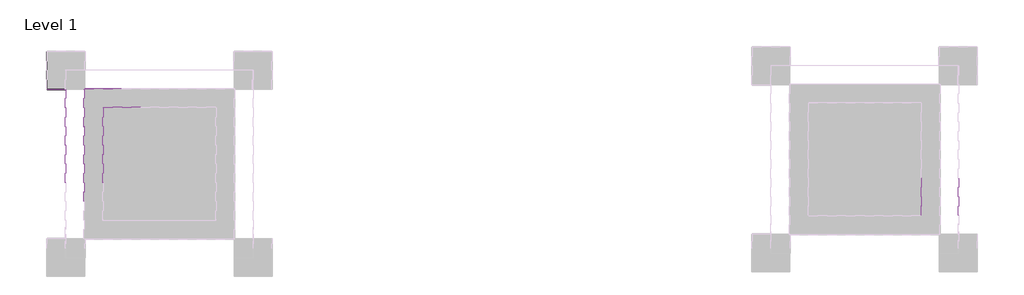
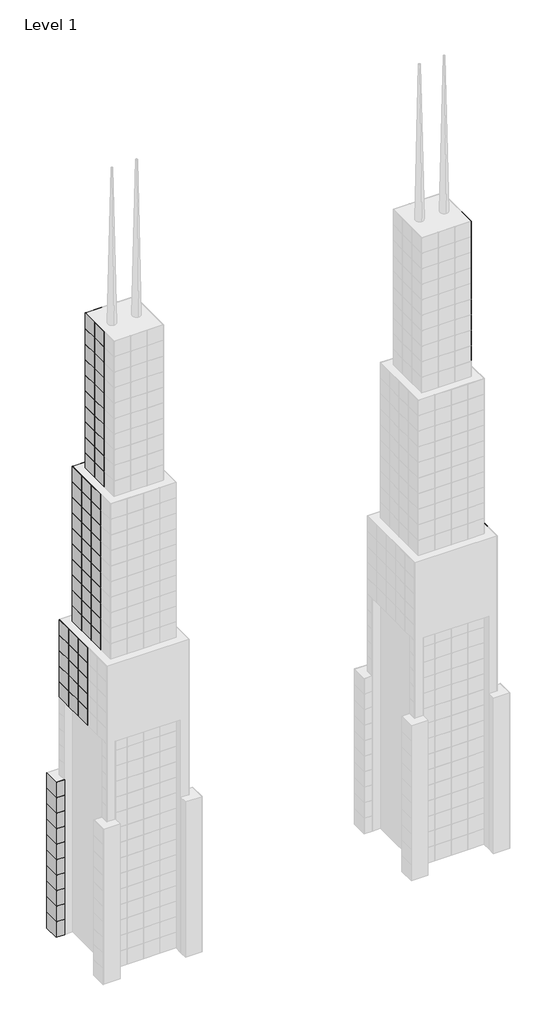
# One storey, part 7 of 15: 138 plates.
"""IFC4 building model written with IfcOpenShell, lengths in millimetres."""

from ifc_helpers import new_model, si_unit, origin, place, context, project, spatial, transform, mapped, element, save
from components import system_panel_glazed_9c75bc08, system_panel_glazed_0a0842ec, system_panel_glazed_aa64d645

model = new_model("IFC4")

# Units and contexts
model_context = context("Model", 3, world=origin())
ifc_project = project(units=[si_unit("LENGTHUNIT", "METRE", prefix="MILLI")], contexts=[model_context])

# Site, building, storey
site = spatial("IfcSite", under=ifc_project)
building = spatial("IfcBuilding", under=site)
storey = spatial("IfcBuildingStorey", under=building, Name="Level 1", Elevation=0.0)

# Plates
placement = place(None, origin())
system_panel_glazed_shape = system_panel_glazed_9c75bc08(model_context)
element("IfcPlate", 1, ObjectType="System Panel : Glazed", at=placement, inside=storey, context=model_context, shape_type="MappedRepresentation", body=[
    mapped(system_panel_glazed_shape, transform((-21601.4161695, 7973.9495511, 0.0), x_axis=(1.0, 0.0, 0.0), y_axis=(0.0, 1.0, 0.0), z_axis=(0.0, 0.0, 1.0))),
])
element("IfcPlate", 2, ObjectType="System Panel : Glazed", at=placement, inside=storey, context=model_context, shape_type="MappedRepresentation", body=[
    mapped(system_panel_glazed_shape, transform((-21601.4161695, 7973.9495511, 3048.0), x_axis=(1.0, 0.0, 0.0), y_axis=(0.0, 1.0, 0.0), z_axis=(0.0, 0.0, 1.0))),
])
element("IfcPlate", 3, ObjectType="System Panel : Glazed", at=placement, inside=storey, context=model_context, shape_type="MappedRepresentation", body=[
    mapped(system_panel_glazed_shape, transform((-21601.4161695, 7973.9495511, 6096.0), x_axis=(1.0, 0.0, 0.0), y_axis=(0.0, 1.0, 0.0), z_axis=(0.0, 0.0, 1.0))),
])
element("IfcPlate", 4, ObjectType="System Panel : Glazed", at=placement, inside=storey, context=model_context, shape_type="MappedRepresentation", body=[
    mapped(system_panel_glazed_shape, transform((-21601.4161695, 7973.9495511, 9144.0), x_axis=(1.0, 0.0, 0.0), y_axis=(0.0, 1.0, 0.0), z_axis=(0.0, 0.0, 1.0))),
])
element("IfcPlate", 5, ObjectType="System Panel : Glazed", at=placement, inside=storey, context=model_context, shape_type="MappedRepresentation", body=[
    mapped(system_panel_glazed_shape, transform((-21601.4161695, 7973.9495511, 12192.0), x_axis=(1.0, 0.0, 0.0), y_axis=(0.0, 1.0, 0.0), z_axis=(0.0, 0.0, 1.0))),
])
element("IfcPlate", 6, ObjectType="System Panel : Glazed", at=placement, inside=storey, context=model_context, shape_type="MappedRepresentation", body=[
    mapped(system_panel_glazed_shape, transform((-21601.4161695, 7973.9495511, 15240.0), x_axis=(1.0, 0.0, 0.0), y_axis=(0.0, 1.0, 0.0), z_axis=(0.0, 0.0, 1.0))),
])
element("IfcPlate", 7, ObjectType="System Panel : Glazed", at=placement, inside=storey, context=model_context, shape_type="MappedRepresentation", body=[
    mapped(system_panel_glazed_shape, transform((-21601.4161695, 7973.9495511, 18288.0), x_axis=(1.0, 0.0, 0.0), y_axis=(0.0, 1.0, 0.0), z_axis=(0.0, 0.0, 1.0))),
])
element("IfcPlate", 8, ObjectType="System Panel : Glazed", at=placement, inside=storey, context=model_context, shape_type="MappedRepresentation", body=[
    mapped(system_panel_glazed_shape, transform((-21601.4161695, 7973.9495511, 21336.0), x_axis=(1.0, 0.0, 0.0), y_axis=(0.0, 1.0, 0.0), z_axis=(0.0, 0.0, 1.0))),
])
element("IfcPlate", 9, ObjectType="System Panel : Glazed", at=placement, inside=storey, context=model_context, shape_type="MappedRepresentation", body=[
    mapped(system_panel_glazed_shape, transform((-21601.4161695, 7973.9495511, 24384.0), x_axis=(1.0, 0.0, 0.0), y_axis=(0.0, 1.0, 0.0), z_axis=(0.0, 0.0, 1.0))),
])
element("IfcPlate", 10, ObjectType="System Panel : Glazed", at=placement, inside=storey, context=model_context, shape_type="MappedRepresentation", body=[
    mapped(system_panel_glazed_shape, transform((-21601.4161695, 7973.9495511, 27432.0), x_axis=(1.0, 0.0, 0.0), y_axis=(0.0, 1.0, 0.0), z_axis=(0.0, 0.0, 1.0))),
])
system_panel_glazed_2_shape = system_panel_glazed_0a0842ec(model_context)
element("IfcPlate", 11, ObjectType="System Panel : Glazed", at=placement, inside=storey, context=model_context, shape_type="MappedRepresentation", body=[
    mapped(system_panel_glazed_2_shape, transform((-20839.4161695, 7973.9495511, 45720.0), x_axis=(0.0, -1.0, 0.0), y_axis=(1.0, 0.0, 0.0), z_axis=(0.0, 0.0, 1.0))),
])
element("IfcPlate", 12, ObjectType="System Panel : Glazed", at=placement, inside=storey, context=model_context, shape_type="MappedRepresentation", body=[
    mapped(system_panel_glazed_2_shape, transform((-20839.4161695, 7973.9495511, 45720.0), x_axis=(0.0, -1.0, 0.0), y_axis=(1.0, 0.0, 0.0), z_axis=(0.0, 0.0, 1.0))),
])
system_panel_glazed_3_shape = system_panel_glazed_aa64d645(model_context)
element("IfcPlate", 13, ObjectType="System Panel : Glazed", at=placement, inside=storey, context=model_context, shape_type="MappedRepresentation", body=[
    mapped(system_panel_glazed_3_shape, transform((-20839.4161695, 4925.9495511, 45720.0), x_axis=(0.0, -1.0, 0.0), y_axis=(1.0, 0.0, 0.0), z_axis=(0.0, 0.0, 1.0))),
])
element("IfcPlate", 14, ObjectType="System Panel : Glazed", at=placement, inside=storey, context=model_context, shape_type="MappedRepresentation", body=[
    mapped(system_panel_glazed_3_shape, transform((-20839.4161695, 1877.9495511, 45720.0), x_axis=(0.0, -1.0, 0.0), y_axis=(1.0, 0.0, 0.0), z_axis=(0.0, 0.0, 1.0))),
])
element("IfcPlate", 15, ObjectType="System Panel : Glazed", at=placement, inside=storey, context=model_context, shape_type="MappedRepresentation", body=[
    mapped(system_panel_glazed_3_shape, transform((-20839.4161695, 7973.9495511, 48768.0), x_axis=(0.0, -1.0, 0.0), y_axis=(1.0, 0.0, 0.0), z_axis=(0.0, 0.0, 1.0))),
])
element("IfcPlate", 16, ObjectType="System Panel : Glazed", at=placement, inside=storey, context=model_context, shape_type="MappedRepresentation", body=[
    mapped(system_panel_glazed_3_shape, transform((-20839.4161695, 4925.9495511, 48768.0), x_axis=(0.0, -1.0, 0.0), y_axis=(1.0, 0.0, 0.0), z_axis=(0.0, 0.0, 1.0))),
])
element("IfcPlate", 17, ObjectType="System Panel : Glazed", at=placement, inside=storey, context=model_context, shape_type="MappedRepresentation", body=[
    mapped(system_panel_glazed_3_shape, transform((-20839.4161695, 1877.9495511, 48768.0), x_axis=(0.0, -1.0, 0.0), y_axis=(1.0, 0.0, 0.0), z_axis=(0.0, 0.0, 1.0))),
])
element("IfcPlate", 18, ObjectType="System Panel : Glazed", at=placement, inside=storey, context=model_context, shape_type="MappedRepresentation", body=[
    mapped(system_panel_glazed_3_shape, transform((-20839.4161695, 7973.9495511, 51816.0), x_axis=(0.0, -1.0, 0.0), y_axis=(1.0, 0.0, 0.0), z_axis=(0.0, 0.0, 1.0))),
])
element("IfcPlate", 19, ObjectType="System Panel : Glazed", at=placement, inside=storey, context=model_context, shape_type="MappedRepresentation", body=[
    mapped(system_panel_glazed_3_shape, transform((-20839.4161695, 4925.9495511, 51816.0), x_axis=(0.0, -1.0, 0.0), y_axis=(1.0, 0.0, 0.0), z_axis=(0.0, 0.0, 1.0))),
])
element("IfcPlate", 20, ObjectType="System Panel : Glazed", at=placement, inside=storey, context=model_context, shape_type="MappedRepresentation", body=[
    mapped(system_panel_glazed_3_shape, transform((-20839.4161695, 1877.9495511, 51816.0), x_axis=(0.0, -1.0, 0.0), y_axis=(1.0, 0.0, 0.0), z_axis=(0.0, 0.0, 1.0))),
])
element("IfcPlate", 21, ObjectType="System Panel : Glazed", at=placement, inside=storey, context=model_context, shape_type="MappedRepresentation", body=[
    mapped(system_panel_glazed_3_shape, transform((-20839.4161695, 7973.9495511, 54864.0), x_axis=(0.0, -1.0, 0.0), y_axis=(1.0, 0.0, 0.0), z_axis=(0.0, 0.0, 1.0))),
])
element("IfcPlate", 22, ObjectType="System Panel : Glazed", at=placement, inside=storey, context=model_context, shape_type="MappedRepresentation", body=[
    mapped(system_panel_glazed_3_shape, transform((-20839.4161695, 4925.9495511, 54864.0), x_axis=(0.0, -1.0, 0.0), y_axis=(1.0, 0.0, 0.0), z_axis=(0.0, 0.0, 1.0))),
])
element("IfcPlate", 23, ObjectType="System Panel : Glazed", at=placement, inside=storey, context=model_context, shape_type="MappedRepresentation", body=[
    mapped(system_panel_glazed_3_shape, transform((-20839.4161695, 1877.9495511, 54864.0), x_axis=(0.0, -1.0, 0.0), y_axis=(1.0, 0.0, 0.0), z_axis=(0.0, 0.0, 1.0))),
])
element("IfcPlate", 24, ObjectType="System Panel : Glazed", at=placement, inside=storey, context=model_context, shape_type="MappedRepresentation", body=[
    mapped(system_panel_glazed_3_shape, transform((-20839.4161695, 7973.9495511, 57912.0), x_axis=(0.0, -1.0, 0.0), y_axis=(1.0, 0.0, 0.0), z_axis=(0.0, 0.0, 1.0))),
])
element("IfcPlate", 25, ObjectType="System Panel : Glazed", at=placement, inside=storey, context=model_context, shape_type="MappedRepresentation", body=[
    mapped(system_panel_glazed_3_shape, transform((-20839.4161695, 4925.9495511, 57912.0), x_axis=(0.0, -1.0, 0.0), y_axis=(1.0, 0.0, 0.0), z_axis=(0.0, 0.0, 1.0))),
])
element("IfcPlate", 26, ObjectType="System Panel : Glazed", at=placement, inside=storey, context=model_context, shape_type="MappedRepresentation", body=[
    mapped(system_panel_glazed_3_shape, transform((-20839.4161695, 1877.9495511, 57912.0), x_axis=(0.0, -1.0, 0.0), y_axis=(1.0, 0.0, 0.0), z_axis=(0.0, 0.0, 1.0))),
])
element("IfcPlate", 27, ObjectType="System Panel : Glazed", at=placement, inside=storey, context=model_context, shape_type="MappedRepresentation", body=[
    mapped(system_panel_glazed_3_shape, transform((-19315.4161695, 6449.9495511, 60960.0), x_axis=(0.0, -1.0, 0.0), y_axis=(1.0, 0.0, 0.0), z_axis=(0.0, 0.0, 1.0))),
])
element("IfcPlate", 28, ObjectType="System Panel : Glazed", at=placement, inside=storey, context=model_context, shape_type="MappedRepresentation", body=[
    mapped(system_panel_glazed_3_shape, transform((-19315.4161695, 3401.9495511, 60960.0), x_axis=(0.0, -1.0, 0.0), y_axis=(1.0, 0.0, 0.0), z_axis=(0.0, 0.0, 1.0))),
])
element("IfcPlate", 29, ObjectType="System Panel : Glazed", at=placement, inside=storey, context=model_context, shape_type="MappedRepresentation", body=[
    mapped(system_panel_glazed_3_shape, transform((-19315.4161695, 353.9495511, 60960.0), x_axis=(0.0, -1.0, 0.0), y_axis=(1.0, 0.0, 0.0), z_axis=(0.0, 0.0, 1.0))),
])
element("IfcPlate", 30, ObjectType="System Panel : Glazed", at=placement, inside=storey, context=model_context, shape_type="MappedRepresentation", body=[
    mapped(system_panel_glazed_3_shape, transform((-19315.4161695, 6449.9495511, 64008.0), x_axis=(0.0, -1.0, 0.0), y_axis=(1.0, 0.0, 0.0), z_axis=(0.0, 0.0, 1.0))),
])
element("IfcPlate", 31, ObjectType="System Panel : Glazed", at=placement, inside=storey, context=model_context, shape_type="MappedRepresentation", body=[
    mapped(system_panel_glazed_3_shape, transform((-19315.4161695, 3401.9495511, 64008.0), x_axis=(0.0, -1.0, 0.0), y_axis=(1.0, 0.0, 0.0), z_axis=(0.0, 0.0, 1.0))),
])
element("IfcPlate", 32, ObjectType="System Panel : Glazed", at=placement, inside=storey, context=model_context, shape_type="MappedRepresentation", body=[
    mapped(system_panel_glazed_3_shape, transform((-19315.4161695, 353.9495511, 64008.0), x_axis=(0.0, -1.0, 0.0), y_axis=(1.0, 0.0, 0.0), z_axis=(0.0, 0.0, 1.0))),
])
element("IfcPlate", 33, ObjectType="System Panel : Glazed", at=placement, inside=storey, context=model_context, shape_type="MappedRepresentation", body=[
    mapped(system_panel_glazed_3_shape, transform((-19315.4161695, 6449.9495511, 67056.0), x_axis=(0.0, -1.0, 0.0), y_axis=(1.0, 0.0, 0.0), z_axis=(0.0, 0.0, 1.0))),
])
element("IfcPlate", 34, ObjectType="System Panel : Glazed", at=placement, inside=storey, context=model_context, shape_type="MappedRepresentation", body=[
    mapped(system_panel_glazed_3_shape, transform((-19315.4161695, 3401.9495511, 67056.0), x_axis=(0.0, -1.0, 0.0), y_axis=(1.0, 0.0, 0.0), z_axis=(0.0, 0.0, 1.0))),
])
element("IfcPlate", 35, ObjectType="System Panel : Glazed", at=placement, inside=storey, context=model_context, shape_type="MappedRepresentation", body=[
    mapped(system_panel_glazed_3_shape, transform((-19315.4161695, 353.9495511, 67056.0), x_axis=(0.0, -1.0, 0.0), y_axis=(1.0, 0.0, 0.0), z_axis=(0.0, 0.0, 1.0))),
])
element("IfcPlate", 36, ObjectType="System Panel : Glazed", at=placement, inside=storey, context=model_context, shape_type="MappedRepresentation", body=[
    mapped(system_panel_glazed_3_shape, transform((-19315.4161695, 6449.9495511, 70104.0), x_axis=(0.0, -1.0, 0.0), y_axis=(1.0, 0.0, 0.0), z_axis=(0.0, 0.0, 1.0))),
])
element("IfcPlate", 37, ObjectType="System Panel : Glazed", at=placement, inside=storey, context=model_context, shape_type="MappedRepresentation", body=[
    mapped(system_panel_glazed_3_shape, transform((-19315.4161695, 3401.9495511, 70104.0), x_axis=(0.0, -1.0, 0.0), y_axis=(1.0, 0.0, 0.0), z_axis=(0.0, 0.0, 1.0))),
])
element("IfcPlate", 38, ObjectType="System Panel : Glazed", at=placement, inside=storey, context=model_context, shape_type="MappedRepresentation", body=[
    mapped(system_panel_glazed_3_shape, transform((-19315.4161695, 353.9495511, 70104.0), x_axis=(0.0, -1.0, 0.0), y_axis=(1.0, 0.0, 0.0), z_axis=(0.0, 0.0, 1.0))),
])
element("IfcPlate", 39, ObjectType="System Panel : Glazed", at=placement, inside=storey, context=model_context, shape_type="MappedRepresentation", body=[
    mapped(system_panel_glazed_3_shape, transform((-19315.4161695, 6449.9495511, 73152.0), x_axis=(0.0, -1.0, 0.0), y_axis=(1.0, 0.0, 0.0), z_axis=(0.0, 0.0, 1.0))),
])
element("IfcPlate", 40, ObjectType="System Panel : Glazed", at=placement, inside=storey, context=model_context, shape_type="MappedRepresentation", body=[
    mapped(system_panel_glazed_3_shape, transform((-19315.4161695, 3401.9495511, 73152.0), x_axis=(0.0, -1.0, 0.0), y_axis=(1.0, 0.0, 0.0), z_axis=(0.0, 0.0, 1.0))),
])
element("IfcPlate", 41, ObjectType="System Panel : Glazed", at=placement, inside=storey, context=model_context, shape_type="MappedRepresentation", body=[
    mapped(system_panel_glazed_3_shape, transform((-19315.4161695, 353.9495511, 73152.0), x_axis=(0.0, -1.0, 0.0), y_axis=(1.0, 0.0, 0.0), z_axis=(0.0, 0.0, 1.0))),
])
element("IfcPlate", 42, ObjectType="System Panel : Glazed", at=placement, inside=storey, context=model_context, shape_type="MappedRepresentation", body=[
    mapped(system_panel_glazed_3_shape, transform((-19315.4161695, 6449.9495511, 76200.0), x_axis=(0.0, -1.0, 0.0), y_axis=(1.0, 0.0, 0.0), z_axis=(0.0, 0.0, 1.0))),
])
element("IfcPlate", 43, ObjectType="System Panel : Glazed", at=placement, inside=storey, context=model_context, shape_type="MappedRepresentation", body=[
    mapped(system_panel_glazed_3_shape, transform((-19315.4161695, 3401.9495511, 76200.0), x_axis=(0.0, -1.0, 0.0), y_axis=(1.0, 0.0, 0.0), z_axis=(0.0, 0.0, 1.0))),
])
element("IfcPlate", 44, ObjectType="System Panel : Glazed", at=placement, inside=storey, context=model_context, shape_type="MappedRepresentation", body=[
    mapped(system_panel_glazed_3_shape, transform((-19315.4161695, 353.9495511, 76200.0), x_axis=(0.0, -1.0, 0.0), y_axis=(1.0, 0.0, 0.0), z_axis=(0.0, 0.0, 1.0))),
])
element("IfcPlate", 45, ObjectType="System Panel : Glazed", at=placement, inside=storey, context=model_context, shape_type="MappedRepresentation", body=[
    mapped(system_panel_glazed_3_shape, transform((-19315.4161695, 6449.9495511, 79248.0), x_axis=(0.0, -1.0, 0.0), y_axis=(1.0, 0.0, 0.0), z_axis=(0.0, 0.0, 1.0))),
])
element("IfcPlate", 46, ObjectType="System Panel : Glazed", at=placement, inside=storey, context=model_context, shape_type="MappedRepresentation", body=[
    mapped(system_panel_glazed_3_shape, transform((-19315.4161695, 3401.9495511, 79248.0), x_axis=(0.0, -1.0, 0.0), y_axis=(1.0, 0.0, 0.0), z_axis=(0.0, 0.0, 1.0))),
])
element("IfcPlate", 47, ObjectType="System Panel : Glazed", at=placement, inside=storey, context=model_context, shape_type="MappedRepresentation", body=[
    mapped(system_panel_glazed_3_shape, transform((-19315.4161695, 353.9495511, 79248.0), x_axis=(0.0, -1.0, 0.0), y_axis=(1.0, 0.0, 0.0), z_axis=(0.0, 0.0, 1.0))),
])
element("IfcPlate", 48, ObjectType="System Panel : Glazed", at=placement, inside=storey, context=model_context, shape_type="MappedRepresentation", body=[
    mapped(system_panel_glazed_3_shape, transform((-19315.4161695, 6449.9495511, 82296.0), x_axis=(0.0, -1.0, 0.0), y_axis=(1.0, 0.0, 0.0), z_axis=(0.0, 0.0, 1.0))),
])
element("IfcPlate", 49, ObjectType="System Panel : Glazed", at=placement, inside=storey, context=model_context, shape_type="MappedRepresentation", body=[
    mapped(system_panel_glazed_3_shape, transform((-19315.4161695, 3401.9495511, 82296.0), x_axis=(0.0, -1.0, 0.0), y_axis=(1.0, 0.0, 0.0), z_axis=(0.0, 0.0, 1.0))),
])
element("IfcPlate", 50, ObjectType="System Panel : Glazed", at=placement, inside=storey, context=model_context, shape_type="MappedRepresentation", body=[
    mapped(system_panel_glazed_3_shape, transform((-19315.4161695, 353.9495511, 82296.0), x_axis=(0.0, -1.0, 0.0), y_axis=(1.0, 0.0, 0.0), z_axis=(0.0, 0.0, 1.0))),
])
element("IfcPlate", 51, ObjectType="System Panel : Glazed", at=placement, inside=storey, context=model_context, shape_type="MappedRepresentation", body=[
    mapped(system_panel_glazed_3_shape, transform((-19315.4161695, 6449.9495511, 85344.0), x_axis=(0.0, -1.0, 0.0), y_axis=(1.0, 0.0, 0.0), z_axis=(0.0, 0.0, 1.0))),
])
element("IfcPlate", 52, ObjectType="System Panel : Glazed", at=placement, inside=storey, context=model_context, shape_type="MappedRepresentation", body=[
    mapped(system_panel_glazed_3_shape, transform((-19315.4161695, 3401.9495511, 85344.0), x_axis=(0.0, -1.0, 0.0), y_axis=(1.0, 0.0, 0.0), z_axis=(0.0, 0.0, 1.0))),
])
element("IfcPlate", 53, ObjectType="System Panel : Glazed", at=placement, inside=storey, context=model_context, shape_type="MappedRepresentation", body=[
    mapped(system_panel_glazed_3_shape, transform((-19315.4161695, 353.9495511, 85344.0), x_axis=(0.0, -1.0, 0.0), y_axis=(1.0, 0.0, 0.0), z_axis=(0.0, 0.0, 1.0))),
])
element("IfcPlate", 54, ObjectType="System Panel : Glazed", at=placement, inside=storey, context=model_context, shape_type="MappedRepresentation", body=[
    mapped(system_panel_glazed_3_shape, transform((-19315.4161695, 6449.9495511, 88392.0), x_axis=(0.0, -1.0, 0.0), y_axis=(1.0, 0.0, 0.0), z_axis=(0.0, 0.0, 1.0))),
])
element("IfcPlate", 55, ObjectType="System Panel : Glazed", at=placement, inside=storey, context=model_context, shape_type="MappedRepresentation", body=[
    mapped(system_panel_glazed_3_shape, transform((-19315.4161695, 3401.9495511, 88392.0), x_axis=(0.0, -1.0, 0.0), y_axis=(1.0, 0.0, 0.0), z_axis=(0.0, 0.0, 1.0))),
])
element("IfcPlate", 56, ObjectType="System Panel : Glazed", at=placement, inside=storey, context=model_context, shape_type="MappedRepresentation", body=[
    mapped(system_panel_glazed_3_shape, transform((-19315.4161695, 353.9495511, 88392.0), x_axis=(0.0, -1.0, 0.0), y_axis=(1.0, 0.0, 0.0), z_axis=(0.0, 0.0, 1.0))),
])
element("IfcPlate", 57, ObjectType="System Panel : Glazed", at=placement, inside=storey, context=model_context, shape_type="MappedRepresentation", body=[
    mapped(system_panel_glazed_3_shape, transform((-17791.4161695, 7973.9495511, 60960.0), x_axis=(-1.0, 0.0, 0.0), y_axis=(0.0, -1.0, 0.0), z_axis=(0.0, 0.0, 1.0))),
])
element("IfcPlate", 58, ObjectType="System Panel : Glazed", at=placement, inside=storey, context=model_context, shape_type="MappedRepresentation", body=[
    mapped(system_panel_glazed_3_shape, transform((-17791.4161695, 7973.9495511, 64008.0), x_axis=(-1.0, 0.0, 0.0), y_axis=(0.0, -1.0, 0.0), z_axis=(0.0, 0.0, 1.0))),
])
element("IfcPlate", 59, ObjectType="System Panel : Glazed", at=placement, inside=storey, context=model_context, shape_type="MappedRepresentation", body=[
    mapped(system_panel_glazed_3_shape, transform((-17791.4161695, 7973.9495511, 67056.0), x_axis=(-1.0, 0.0, 0.0), y_axis=(0.0, -1.0, 0.0), z_axis=(0.0, 0.0, 1.0))),
])
element("IfcPlate", 60, ObjectType="System Panel : Glazed", at=placement, inside=storey, context=model_context, shape_type="MappedRepresentation", body=[
    mapped(system_panel_glazed_3_shape, transform((-17791.4161695, 7973.9495511, 70104.0), x_axis=(-1.0, 0.0, 0.0), y_axis=(0.0, -1.0, 0.0), z_axis=(0.0, 0.0, 1.0))),
])
element("IfcPlate", 61, ObjectType="System Panel : Glazed", at=placement, inside=storey, context=model_context, shape_type="MappedRepresentation", body=[
    mapped(system_panel_glazed_3_shape, transform((-17791.4161695, 7973.9495511, 73152.0), x_axis=(-1.0, 0.0, 0.0), y_axis=(0.0, -1.0, 0.0), z_axis=(0.0, 0.0, 1.0))),
])
element("IfcPlate", 62, ObjectType="System Panel : Glazed", at=placement, inside=storey, context=model_context, shape_type="MappedRepresentation", body=[
    mapped(system_panel_glazed_3_shape, transform((-17791.4161695, 7973.9495511, 76200.0), x_axis=(-1.0, 0.0, 0.0), y_axis=(0.0, -1.0, 0.0), z_axis=(0.0, 0.0, 1.0))),
])
element("IfcPlate", 63, ObjectType="System Panel : Glazed", at=placement, inside=storey, context=model_context, shape_type="MappedRepresentation", body=[
    mapped(system_panel_glazed_3_shape, transform((-17791.4161695, 7973.9495511, 79248.0), x_axis=(-1.0, 0.0, 0.0), y_axis=(0.0, -1.0, 0.0), z_axis=(0.0, 0.0, 1.0))),
])
element("IfcPlate", 64, ObjectType="System Panel : Glazed", at=placement, inside=storey, context=model_context, shape_type="MappedRepresentation", body=[
    mapped(system_panel_glazed_3_shape, transform((-17791.4161695, 7973.9495511, 82296.0), x_axis=(-1.0, 0.0, 0.0), y_axis=(0.0, -1.0, 0.0), z_axis=(0.0, 0.0, 1.0))),
])
element("IfcPlate", 65, ObjectType="System Panel : Glazed", at=placement, inside=storey, context=model_context, shape_type="MappedRepresentation", body=[
    mapped(system_panel_glazed_3_shape, transform((-17791.4161695, 7973.9495511, 85344.0), x_axis=(-1.0, 0.0, 0.0), y_axis=(0.0, -1.0, 0.0), z_axis=(0.0, 0.0, 1.0))),
])
element("IfcPlate", 66, ObjectType="System Panel : Glazed", at=placement, inside=storey, context=model_context, shape_type="MappedRepresentation", body=[
    mapped(system_panel_glazed_3_shape, transform((-17791.4161695, 7973.9495511, 88392.0), x_axis=(-1.0, 0.0, 0.0), y_axis=(0.0, -1.0, 0.0), z_axis=(0.0, 0.0, 1.0))),
])
element("IfcPlate", 67, ObjectType="System Panel : Glazed", at=placement, inside=storey, context=model_context, shape_type="MappedRepresentation", body=[
    mapped(system_panel_glazed_3_shape, transform((-16261.8488996, 6449.9495511, 91440.0), x_axis=(-1.0, 0.0, 0.0), y_axis=(0.0, -1.0, 0.0), z_axis=(0.0, 0.0, 1.0))),
])
element("IfcPlate", 68, ObjectType="System Panel : Glazed", at=placement, inside=storey, context=model_context, shape_type="MappedRepresentation", body=[
    mapped(system_panel_glazed_3_shape, transform((-16261.8488996, 6449.9495511, 94488.0), x_axis=(-1.0, 0.0, 0.0), y_axis=(0.0, -1.0, 0.0), z_axis=(0.0, 0.0, 1.0))),
])
element("IfcPlate", 69, ObjectType="System Panel : Glazed", at=placement, inside=storey, context=model_context, shape_type="MappedRepresentation", body=[
    mapped(system_panel_glazed_3_shape, transform((-16261.8488996, 6449.9495511, 97536.0), x_axis=(-1.0, 0.0, 0.0), y_axis=(0.0, -1.0, 0.0), z_axis=(0.0, 0.0, 1.0))),
])
element("IfcPlate", 70, ObjectType="System Panel : Glazed", at=placement, inside=storey, context=model_context, shape_type="MappedRepresentation", body=[
    mapped(system_panel_glazed_3_shape, transform((-16261.8488996, 6449.9495511, 100584.0), x_axis=(-1.0, 0.0, 0.0), y_axis=(0.0, -1.0, 0.0), z_axis=(0.0, 0.0, 1.0))),
])
element("IfcPlate", 71, ObjectType="System Panel : Glazed", at=placement, inside=storey, context=model_context, shape_type="MappedRepresentation", body=[
    mapped(system_panel_glazed_3_shape, transform((-16261.8488996, 6449.9495511, 103632.0), x_axis=(-1.0, 0.0, 0.0), y_axis=(0.0, -1.0, 0.0), z_axis=(0.0, 0.0, 1.0))),
])
element("IfcPlate", 72, ObjectType="System Panel : Glazed", at=placement, inside=storey, context=model_context, shape_type="MappedRepresentation", body=[
    mapped(system_panel_glazed_3_shape, transform((-16261.8488996, 6449.9495511, 106680.0), x_axis=(-1.0, 0.0, 0.0), y_axis=(0.0, -1.0, 0.0), z_axis=(0.0, 0.0, 1.0))),
])
element("IfcPlate", 73, ObjectType="System Panel : Glazed", at=placement, inside=storey, context=model_context, shape_type="MappedRepresentation", body=[
    mapped(system_panel_glazed_3_shape, transform((-16261.8488996, 6449.9495511, 109728.0), x_axis=(-1.0, 0.0, 0.0), y_axis=(0.0, -1.0, 0.0), z_axis=(0.0, 0.0, 1.0))),
])
element("IfcPlate", 74, ObjectType="System Panel : Glazed", at=placement, inside=storey, context=model_context, shape_type="MappedRepresentation", body=[
    mapped(system_panel_glazed_3_shape, transform((-16261.8488996, 6449.9495511, 112776.0), x_axis=(-1.0, 0.0, 0.0), y_axis=(0.0, -1.0, 0.0), z_axis=(0.0, 0.0, 1.0))),
])
element("IfcPlate", 75, ObjectType="System Panel : Glazed", at=placement, inside=storey, context=model_context, shape_type="MappedRepresentation", body=[
    mapped(system_panel_glazed_3_shape, transform((-16261.8488996, 6449.9495511, 115824.0), x_axis=(-1.0, 0.0, 0.0), y_axis=(0.0, -1.0, 0.0), z_axis=(0.0, 0.0, 1.0))),
])
element("IfcPlate", 76, ObjectType="System Panel : Glazed", at=placement, inside=storey, context=model_context, shape_type="MappedRepresentation", body=[
    mapped(system_panel_glazed_3_shape, transform((-16261.8488996, 6449.9495511, 118872.0), x_axis=(-1.0, 0.0, 0.0), y_axis=(0.0, -1.0, 0.0), z_axis=(0.0, 0.0, 1.0))),
])
element("IfcPlate", 77, ObjectType="System Panel : Glazed", at=placement, inside=storey, context=model_context, shape_type="MappedRepresentation", body=[
    mapped(system_panel_glazed_3_shape, transform((-17785.8488996, 4925.9495511, 91440.0), x_axis=(0.0, -1.0, 0.0), y_axis=(1.0, 0.0, 0.0), z_axis=(0.0, 0.0, 1.0))),
])
element("IfcPlate", 78, ObjectType="System Panel : Glazed", at=placement, inside=storey, context=model_context, shape_type="MappedRepresentation", body=[
    mapped(system_panel_glazed_3_shape, transform((-17785.8488996, 1877.9495511, 91440.0), x_axis=(0.0, -1.0, 0.0), y_axis=(1.0, 0.0, 0.0), z_axis=(0.0, 0.0, 1.0))),
])
element("IfcPlate", 79, ObjectType="System Panel : Glazed", at=placement, inside=storey, context=model_context, shape_type="MappedRepresentation", body=[
    mapped(system_panel_glazed_3_shape, transform((-17785.8488996, 4925.9495511, 94488.0), x_axis=(0.0, -1.0, 0.0), y_axis=(1.0, 0.0, 0.0), z_axis=(0.0, 0.0, 1.0))),
])
element("IfcPlate", 80, ObjectType="System Panel : Glazed", at=placement, inside=storey, context=model_context, shape_type="MappedRepresentation", body=[
    mapped(system_panel_glazed_3_shape, transform((-17785.8488996, 1877.9495511, 94488.0), x_axis=(0.0, -1.0, 0.0), y_axis=(1.0, 0.0, 0.0), z_axis=(0.0, 0.0, 1.0))),
])
element("IfcPlate", 81, ObjectType="System Panel : Glazed", at=placement, inside=storey, context=model_context, shape_type="MappedRepresentation", body=[
    mapped(system_panel_glazed_3_shape, transform((-17785.8488996, 4925.9495511, 97536.0), x_axis=(0.0, -1.0, 0.0), y_axis=(1.0, 0.0, 0.0), z_axis=(0.0, 0.0, 1.0))),
])
element("IfcPlate", 82, ObjectType="System Panel : Glazed", at=placement, inside=storey, context=model_context, shape_type="MappedRepresentation", body=[
    mapped(system_panel_glazed_3_shape, transform((-17785.8488996, 1877.9495511, 97536.0), x_axis=(0.0, -1.0, 0.0), y_axis=(1.0, 0.0, 0.0), z_axis=(0.0, 0.0, 1.0))),
])
element("IfcPlate", 83, ObjectType="System Panel : Glazed", at=placement, inside=storey, context=model_context, shape_type="MappedRepresentation", body=[
    mapped(system_panel_glazed_3_shape, transform((-17785.8488996, 4925.9495511, 100584.0), x_axis=(0.0, -1.0, 0.0), y_axis=(1.0, 0.0, 0.0), z_axis=(0.0, 0.0, 1.0))),
])
element("IfcPlate", 84, ObjectType="System Panel : Glazed", at=placement, inside=storey, context=model_context, shape_type="MappedRepresentation", body=[
    mapped(system_panel_glazed_3_shape, transform((-17785.8488996, 1877.9495511, 100584.0), x_axis=(0.0, -1.0, 0.0), y_axis=(1.0, 0.0, 0.0), z_axis=(0.0, 0.0, 1.0))),
])
element("IfcPlate", 85, ObjectType="System Panel : Glazed", at=placement, inside=storey, context=model_context, shape_type="MappedRepresentation", body=[
    mapped(system_panel_glazed_3_shape, transform((-17785.8488996, 4925.9495511, 103632.0), x_axis=(0.0, -1.0, 0.0), y_axis=(1.0, 0.0, 0.0), z_axis=(0.0, 0.0, 1.0))),
])
element("IfcPlate", 86, ObjectType="System Panel : Glazed", at=placement, inside=storey, context=model_context, shape_type="MappedRepresentation", body=[
    mapped(system_panel_glazed_3_shape, transform((-17785.8488996, 1877.9495511, 103632.0), x_axis=(0.0, -1.0, 0.0), y_axis=(1.0, 0.0, 0.0), z_axis=(0.0, 0.0, 1.0))),
])
element("IfcPlate", 87, ObjectType="System Panel : Glazed", at=placement, inside=storey, context=model_context, shape_type="MappedRepresentation", body=[
    mapped(system_panel_glazed_3_shape, transform((-17785.8488996, 4925.9495511, 106680.0), x_axis=(0.0, -1.0, 0.0), y_axis=(1.0, 0.0, 0.0), z_axis=(0.0, 0.0, 1.0))),
])
element("IfcPlate", 88, ObjectType="System Panel : Glazed", at=placement, inside=storey, context=model_context, shape_type="MappedRepresentation", body=[
    mapped(system_panel_glazed_3_shape, transform((-17785.8488996, 1877.9495511, 106680.0), x_axis=(0.0, -1.0, 0.0), y_axis=(1.0, 0.0, 0.0), z_axis=(0.0, 0.0, 1.0))),
])
element("IfcPlate", 89, ObjectType="System Panel : Glazed", at=placement, inside=storey, context=model_context, shape_type="MappedRepresentation", body=[
    mapped(system_panel_glazed_3_shape, transform((-17785.8488996, 4925.9495511, 109728.0), x_axis=(0.0, -1.0, 0.0), y_axis=(1.0, 0.0, 0.0), z_axis=(0.0, 0.0, 1.0))),
])
element("IfcPlate", 90, ObjectType="System Panel : Glazed", at=placement, inside=storey, context=model_context, shape_type="MappedRepresentation", body=[
    mapped(system_panel_glazed_3_shape, transform((-17785.8488996, 1877.9495511, 109728.0), x_axis=(0.0, -1.0, 0.0), y_axis=(1.0, 0.0, 0.0), z_axis=(0.0, 0.0, 1.0))),
])
element("IfcPlate", 91, ObjectType="System Panel : Glazed", at=placement, inside=storey, context=model_context, shape_type="MappedRepresentation", body=[
    mapped(system_panel_glazed_3_shape, transform((-17785.8488996, 4925.9495511, 112776.0), x_axis=(0.0, -1.0, 0.0), y_axis=(1.0, 0.0, 0.0), z_axis=(0.0, 0.0, 1.0))),
])
element("IfcPlate", 92, ObjectType="System Panel : Glazed", at=placement, inside=storey, context=model_context, shape_type="MappedRepresentation", body=[
    mapped(system_panel_glazed_3_shape, transform((-17785.8488996, 1877.9495511, 112776.0), x_axis=(0.0, -1.0, 0.0), y_axis=(1.0, 0.0, 0.0), z_axis=(0.0, 0.0, 1.0))),
])
element("IfcPlate", 93, ObjectType="System Panel : Glazed", at=placement, inside=storey, context=model_context, shape_type="MappedRepresentation", body=[
    mapped(system_panel_glazed_3_shape, transform((-17785.8488996, 4925.9495511, 115824.0), x_axis=(0.0, -1.0, 0.0), y_axis=(1.0, 0.0, 0.0), z_axis=(0.0, 0.0, 1.0))),
])
element("IfcPlate", 94, ObjectType="System Panel : Glazed", at=placement, inside=storey, context=model_context, shape_type="MappedRepresentation", body=[
    mapped(system_panel_glazed_3_shape, transform((-17785.8488996, 1877.9495511, 115824.0), x_axis=(0.0, -1.0, 0.0), y_axis=(1.0, 0.0, 0.0), z_axis=(0.0, 0.0, 1.0))),
])
element("IfcPlate", 95, ObjectType="System Panel : Glazed", at=placement, inside=storey, context=model_context, shape_type="MappedRepresentation", body=[
    mapped(system_panel_glazed_3_shape, transform((-17785.8488996, 4925.9495511, 118872.0), x_axis=(0.0, -1.0, 0.0), y_axis=(1.0, 0.0, 0.0), z_axis=(0.0, 0.0, 1.0))),
])
element("IfcPlate", 96, ObjectType="System Panel : Glazed", at=placement, inside=storey, context=model_context, shape_type="MappedRepresentation", body=[
    mapped(system_panel_glazed_3_shape, transform((-17785.8488996, 1877.9495511, 118872.0), x_axis=(0.0, -1.0, 0.0), y_axis=(1.0, 0.0, 0.0), z_axis=(0.0, 0.0, 1.0))),
])
element("IfcPlate", 97, ObjectType="System Panel : Glazed", at=placement, inside=storey, context=model_context, shape_type="MappedRepresentation", body=[
    mapped(system_panel_glazed_3_shape, transform((-20839.4161695, 4925.9495511, 45720.0), x_axis=(0.0, -1.0, 0.0), y_axis=(1.0, 0.0, 0.0), z_axis=(0.0, 0.0, 1.0))),
])
element("IfcPlate", 98, ObjectType="System Panel : Glazed", at=placement, inside=storey, context=model_context, shape_type="MappedRepresentation", body=[
    mapped(system_panel_glazed_3_shape, transform((-20839.4161695, 1877.9495511, 45720.0), x_axis=(0.0, -1.0, 0.0), y_axis=(1.0, 0.0, 0.0), z_axis=(0.0, 0.0, 1.0))),
])
element("IfcPlate", 99, ObjectType="System Panel : Glazed", at=placement, inside=storey, context=model_context, shape_type="MappedRepresentation", body=[
    mapped(system_panel_glazed_3_shape, transform((-20839.4161695, 7973.9495511, 48768.0), x_axis=(0.0, -1.0, 0.0), y_axis=(1.0, 0.0, 0.0), z_axis=(0.0, 0.0, 1.0))),
])
element("IfcPlate", 100, ObjectType="System Panel : Glazed", at=placement, inside=storey, context=model_context, shape_type="MappedRepresentation", body=[
    mapped(system_panel_glazed_3_shape, transform((-20839.4161695, 4925.9495511, 48768.0), x_axis=(0.0, -1.0, 0.0), y_axis=(1.0, 0.0, 0.0), z_axis=(0.0, 0.0, 1.0))),
])
element("IfcPlate", 101, ObjectType="System Panel : Glazed", at=placement, inside=storey, context=model_context, shape_type="MappedRepresentation", body=[
    mapped(system_panel_glazed_3_shape, transform((-20839.4161695, 1877.9495511, 48768.0), x_axis=(0.0, -1.0, 0.0), y_axis=(1.0, 0.0, 0.0), z_axis=(0.0, 0.0, 1.0))),
])
element("IfcPlate", 102, ObjectType="System Panel : Glazed", at=placement, inside=storey, context=model_context, shape_type="MappedRepresentation", body=[
    mapped(system_panel_glazed_3_shape, transform((-20839.4161695, 7973.9495511, 51816.0), x_axis=(0.0, -1.0, 0.0), y_axis=(1.0, 0.0, 0.0), z_axis=(0.0, 0.0, 1.0))),
])
element("IfcPlate", 103, ObjectType="System Panel : Glazed", at=placement, inside=storey, context=model_context, shape_type="MappedRepresentation", body=[
    mapped(system_panel_glazed_3_shape, transform((-20839.4161695, 4925.9495511, 51816.0), x_axis=(0.0, -1.0, 0.0), y_axis=(1.0, 0.0, 0.0), z_axis=(0.0, 0.0, 1.0))),
])
element("IfcPlate", 104, ObjectType="System Panel : Glazed", at=placement, inside=storey, context=model_context, shape_type="MappedRepresentation", body=[
    mapped(system_panel_glazed_3_shape, transform((-20839.4161695, 1877.9495511, 51816.0), x_axis=(0.0, -1.0, 0.0), y_axis=(1.0, 0.0, 0.0), z_axis=(0.0, 0.0, 1.0))),
])
element("IfcPlate", 105, ObjectType="System Panel : Glazed", at=placement, inside=storey, context=model_context, shape_type="MappedRepresentation", body=[
    mapped(system_panel_glazed_3_shape, transform((-20839.4161695, 7973.9495511, 54864.0), x_axis=(0.0, -1.0, 0.0), y_axis=(1.0, 0.0, 0.0), z_axis=(0.0, 0.0, 1.0))),
])
element("IfcPlate", 106, ObjectType="System Panel : Glazed", at=placement, inside=storey, context=model_context, shape_type="MappedRepresentation", body=[
    mapped(system_panel_glazed_3_shape, transform((-20839.4161695, 4925.9495511, 54864.0), x_axis=(0.0, -1.0, 0.0), y_axis=(1.0, 0.0, 0.0), z_axis=(0.0, 0.0, 1.0))),
])
element("IfcPlate", 107, ObjectType="System Panel : Glazed", at=placement, inside=storey, context=model_context, shape_type="MappedRepresentation", body=[
    mapped(system_panel_glazed_3_shape, transform((-20839.4161695, 1877.9495511, 54864.0), x_axis=(0.0, -1.0, 0.0), y_axis=(1.0, 0.0, 0.0), z_axis=(0.0, 0.0, 1.0))),
])
element("IfcPlate", 108, ObjectType="System Panel : Glazed", at=placement, inside=storey, context=model_context, shape_type="MappedRepresentation", body=[
    mapped(system_panel_glazed_3_shape, transform((-20839.4161695, 7973.9495511, 57912.0), x_axis=(0.0, -1.0, 0.0), y_axis=(1.0, 0.0, 0.0), z_axis=(0.0, 0.0, 1.0))),
])
element("IfcPlate", 109, ObjectType="System Panel : Glazed", at=placement, inside=storey, context=model_context, shape_type="MappedRepresentation", body=[
    mapped(system_panel_glazed_3_shape, transform((-20839.4161695, 4925.9495511, 57912.0), x_axis=(0.0, -1.0, 0.0), y_axis=(1.0, 0.0, 0.0), z_axis=(0.0, 0.0, 1.0))),
])
element("IfcPlate", 110, ObjectType="System Panel : Glazed", at=placement, inside=storey, context=model_context, shape_type="MappedRepresentation", body=[
    mapped(system_panel_glazed_3_shape, transform((-20839.4161695, 1877.9495511, 57912.0), x_axis=(0.0, -1.0, 0.0), y_axis=(1.0, 0.0, 0.0), z_axis=(0.0, 0.0, 1.0))),
])
element("IfcPlate", 111, ObjectType="System Panel : Glazed", at=placement, inside=storey, context=model_context, shape_type="MappedRepresentation", body=[
    mapped(system_panel_glazed_3_shape, transform((-22363.4161695, 9497.9495511, 0.0), x_axis=(0.0, -1.0, 0.0), y_axis=(1.0, 0.0, 0.0), z_axis=(0.0, 0.0, 1.0))),
])
element("IfcPlate", 112, ObjectType="System Panel : Glazed", at=placement, inside=storey, context=model_context, shape_type="MappedRepresentation", body=[
    mapped(system_panel_glazed_3_shape, transform((-22363.4161695, 9497.9495511, 3048.0), x_axis=(0.0, -1.0, 0.0), y_axis=(1.0, 0.0, 0.0), z_axis=(0.0, 0.0, 1.0))),
])
element("IfcPlate", 113, ObjectType="System Panel : Glazed", at=placement, inside=storey, context=model_context, shape_type="MappedRepresentation", body=[
    mapped(system_panel_glazed_3_shape, transform((-22363.4161695, 9497.9495511, 6096.0), x_axis=(0.0, -1.0, 0.0), y_axis=(1.0, 0.0, 0.0), z_axis=(0.0, 0.0, 1.0))),
])
element("IfcPlate", 114, ObjectType="System Panel : Glazed", at=placement, inside=storey, context=model_context, shape_type="MappedRepresentation", body=[
    mapped(system_panel_glazed_3_shape, transform((-22363.4161695, 9497.9495511, 9144.0), x_axis=(0.0, -1.0, 0.0), y_axis=(1.0, 0.0, 0.0), z_axis=(0.0, 0.0, 1.0))),
])
element("IfcPlate", 115, ObjectType="System Panel : Glazed", at=placement, inside=storey, context=model_context, shape_type="MappedRepresentation", body=[
    mapped(system_panel_glazed_3_shape, transform((-22363.4161695, 9497.9495511, 12192.0), x_axis=(0.0, -1.0, 0.0), y_axis=(1.0, 0.0, 0.0), z_axis=(0.0, 0.0, 1.0))),
])
element("IfcPlate", 116, ObjectType="System Panel : Glazed", at=placement, inside=storey, context=model_context, shape_type="MappedRepresentation", body=[
    mapped(system_panel_glazed_3_shape, transform((-22363.4161695, 9497.9495511, 15240.0), x_axis=(0.0, -1.0, 0.0), y_axis=(1.0, 0.0, 0.0), z_axis=(0.0, 0.0, 1.0))),
])
element("IfcPlate", 117, ObjectType="System Panel : Glazed", at=placement, inside=storey, context=model_context, shape_type="MappedRepresentation", body=[
    mapped(system_panel_glazed_3_shape, transform((-22363.4161695, 9497.9495511, 18288.0), x_axis=(0.0, -1.0, 0.0), y_axis=(1.0, 0.0, 0.0), z_axis=(0.0, 0.0, 1.0))),
])
element("IfcPlate", 118, ObjectType="System Panel : Glazed", at=placement, inside=storey, context=model_context, shape_type="MappedRepresentation", body=[
    mapped(system_panel_glazed_3_shape, transform((-22363.4161695, 9497.9495511, 21336.0), x_axis=(0.0, -1.0, 0.0), y_axis=(1.0, 0.0, 0.0), z_axis=(0.0, 0.0, 1.0))),
])
element("IfcPlate", 119, ObjectType="System Panel : Glazed", at=placement, inside=storey, context=model_context, shape_type="MappedRepresentation", body=[
    mapped(system_panel_glazed_3_shape, transform((-22363.4161695, 9497.9495511, 24384.0), x_axis=(0.0, -1.0, 0.0), y_axis=(1.0, 0.0, 0.0), z_axis=(0.0, 0.0, 1.0))),
])
element("IfcPlate", 120, ObjectType="System Panel : Glazed", at=placement, inside=storey, context=model_context, shape_type="MappedRepresentation", body=[
    mapped(system_panel_glazed_3_shape, transform((-22363.4161695, 9497.9495511, 27432.0), x_axis=(0.0, -1.0, 0.0), y_axis=(1.0, 0.0, 0.0), z_axis=(0.0, 0.0, 1.0))),
])
element("IfcPlate", 121, ObjectType="System Panel : Glazed", at=placement, inside=storey, context=model_context, shape_type="MappedRepresentation", body=[
    mapped(system_panel_glazed_3_shape, transform((-22363.4161695, 9497.9495511, 0.0), x_axis=(0.0, -1.0, 0.0), y_axis=(1.0, 0.0, 0.0), z_axis=(0.0, 0.0, 1.0))),
])
element("IfcPlate", 122, ObjectType="System Panel : Glazed", at=placement, inside=storey, context=model_context, shape_type="MappedRepresentation", body=[
    mapped(system_panel_glazed_3_shape, transform((-22363.4161695, 9497.9495511, 3048.0), x_axis=(0.0, -1.0, 0.0), y_axis=(1.0, 0.0, 0.0), z_axis=(0.0, 0.0, 1.0))),
])
element("IfcPlate", 123, ObjectType="System Panel : Glazed", at=placement, inside=storey, context=model_context, shape_type="MappedRepresentation", body=[
    mapped(system_panel_glazed_3_shape, transform((-22363.4161695, 9497.9495511, 6096.0), x_axis=(0.0, -1.0, 0.0), y_axis=(1.0, 0.0, 0.0), z_axis=(0.0, 0.0, 1.0))),
])
element("IfcPlate", 124, ObjectType="System Panel : Glazed", at=placement, inside=storey, context=model_context, shape_type="MappedRepresentation", body=[
    mapped(system_panel_glazed_3_shape, transform((-22363.4161695, 9497.9495511, 9144.0), x_axis=(0.0, -1.0, 0.0), y_axis=(1.0, 0.0, 0.0), z_axis=(0.0, 0.0, 1.0))),
])
element("IfcPlate", 125, ObjectType="System Panel : Glazed", at=placement, inside=storey, context=model_context, shape_type="MappedRepresentation", body=[
    mapped(system_panel_glazed_3_shape, transform((51834.2903978, -792.9095598, 45720.0), x_axis=(0.0, 1.0, 0.0), y_axis=(-1.0, 0.0, 0.0), z_axis=(0.0, 0.0, 1.0))),
])
element("IfcPlate", 126, ObjectType="System Panel : Glazed", at=placement, inside=storey, context=model_context, shape_type="MappedRepresentation", body=[
    mapped(system_panel_glazed_3_shape, transform((51834.2903978, -792.9095598, 48768.0), x_axis=(0.0, 1.0, 0.0), y_axis=(-1.0, 0.0, 0.0), z_axis=(0.0, 0.0, 1.0))),
])
element("IfcPlate", 127, ObjectType="System Panel : Glazed", at=placement, inside=storey, context=model_context, shape_type="MappedRepresentation", body=[
    mapped(system_panel_glazed_3_shape, transform((51834.2903978, -792.9095598, 51816.0), x_axis=(0.0, 1.0, 0.0), y_axis=(-1.0, 0.0, 0.0), z_axis=(0.0, 0.0, 1.0))),
])
element("IfcPlate", 128, ObjectType="System Panel : Glazed", at=placement, inside=storey, context=model_context, shape_type="MappedRepresentation", body=[
    mapped(system_panel_glazed_3_shape, transform((51834.2903978, -792.9095598, 54864.0), x_axis=(0.0, 1.0, 0.0), y_axis=(-1.0, 0.0, 0.0), z_axis=(0.0, 0.0, 1.0))),
])
element("IfcPlate", 129, ObjectType="System Panel : Glazed", at=placement, inside=storey, context=model_context, shape_type="MappedRepresentation", body=[
    mapped(system_panel_glazed_3_shape, transform((51834.2903978, -792.9095598, 57912.0), x_axis=(0.0, 1.0, 0.0), y_axis=(-1.0, 0.0, 0.0), z_axis=(0.0, 0.0, 1.0))),
])
element("IfcPlate", 130, ObjectType="System Panel : Glazed", at=placement, inside=storey, context=model_context, shape_type="MappedRepresentation", body=[
    mapped(system_panel_glazed_3_shape, transform((48791.8576677, -792.9095598, 94488.0), x_axis=(0.0, 1.0, 0.0), y_axis=(-1.0, 0.0, 0.0), z_axis=(0.0, 0.0, 1.0))),
])
element("IfcPlate", 131, ObjectType="System Panel : Glazed", at=placement, inside=storey, context=model_context, shape_type="MappedRepresentation", body=[
    mapped(system_panel_glazed_3_shape, transform((48791.8576677, -792.9095598, 97536.0), x_axis=(0.0, 1.0, 0.0), y_axis=(-1.0, 0.0, 0.0), z_axis=(0.0, 0.0, 1.0))),
])
element("IfcPlate", 132, ObjectType="System Panel : Glazed", at=placement, inside=storey, context=model_context, shape_type="MappedRepresentation", body=[
    mapped(system_panel_glazed_3_shape, transform((48791.8576677, -792.9095598, 100584.0), x_axis=(0.0, 1.0, 0.0), y_axis=(-1.0, 0.0, 0.0), z_axis=(0.0, 0.0, 1.0))),
])
element("IfcPlate", 133, ObjectType="System Panel : Glazed", at=placement, inside=storey, context=model_context, shape_type="MappedRepresentation", body=[
    mapped(system_panel_glazed_3_shape, transform((48791.8576677, -792.9095598, 103632.0), x_axis=(0.0, 1.0, 0.0), y_axis=(-1.0, 0.0, 0.0), z_axis=(0.0, 0.0, 1.0))),
])
element("IfcPlate", 134, ObjectType="System Panel : Glazed", at=placement, inside=storey, context=model_context, shape_type="MappedRepresentation", body=[
    mapped(system_panel_glazed_3_shape, transform((48791.8576677, -792.9095598, 106680.0), x_axis=(0.0, 1.0, 0.0), y_axis=(-1.0, 0.0, 0.0), z_axis=(0.0, 0.0, 1.0))),
])
element("IfcPlate", 135, ObjectType="System Panel : Glazed", at=placement, inside=storey, context=model_context, shape_type="MappedRepresentation", body=[
    mapped(system_panel_glazed_3_shape, transform((48791.8576677, -792.9095598, 109728.0), x_axis=(0.0, 1.0, 0.0), y_axis=(-1.0, 0.0, 0.0), z_axis=(0.0, 0.0, 1.0))),
])
element("IfcPlate", 136, ObjectType="System Panel : Glazed", at=placement, inside=storey, context=model_context, shape_type="MappedRepresentation", body=[
    mapped(system_panel_glazed_3_shape, transform((48791.8576677, -792.9095598, 112776.0), x_axis=(0.0, 1.0, 0.0), y_axis=(-1.0, 0.0, 0.0), z_axis=(0.0, 0.0, 1.0))),
])
element("IfcPlate", 137, ObjectType="System Panel : Glazed", at=placement, inside=storey, context=model_context, shape_type="MappedRepresentation", body=[
    mapped(system_panel_glazed_3_shape, transform((48791.8576677, -792.9095598, 115824.0), x_axis=(0.0, 1.0, 0.0), y_axis=(-1.0, 0.0, 0.0), z_axis=(0.0, 0.0, 1.0))),
])
element("IfcPlate", 138, ObjectType="System Panel : Glazed", at=placement, inside=storey, context=model_context, shape_type="MappedRepresentation", body=[
    mapped(system_panel_glazed_3_shape, transform((48791.8576677, -792.9095598, 118872.0), x_axis=(0.0, 1.0, 0.0), y_axis=(-1.0, 0.0, 0.0), z_axis=(0.0, 0.0, 1.0))),
])

save(model, "model.ifc")
